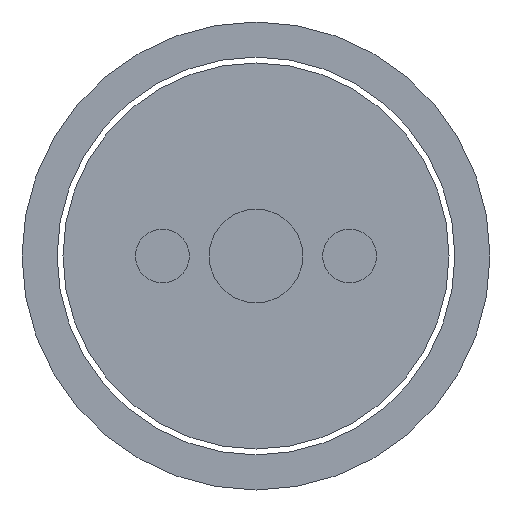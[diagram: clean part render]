
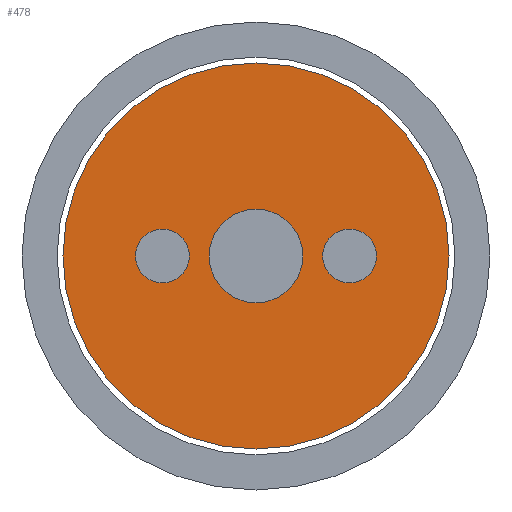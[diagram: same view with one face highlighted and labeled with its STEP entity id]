
A CAD part, front view. The second image highlights one B-rep face of the part: STEP entity #478.
In plain terms, the highlighted planar face has unit normal (0, -1, 0).
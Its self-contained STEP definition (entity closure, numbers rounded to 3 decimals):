
#393=CARTESIAN_POINT('',(0.,200.,0.));
#394=DIRECTION('',(0.,1.,0.));
#395=DIRECTION('',(1.,0.,0.));
#396=AXIS2_PLACEMENT_3D('',#393,#394,#395);
#398=CARTESIAN_POINT('',(0.,200.,0.));
#399=DIRECTION('',(0.,1.,0.));
#400=DIRECTION('',(-1.,0.,0.));
#401=AXIS2_PLACEMENT_3D('',#398,#399,#400);
#403=CARTESIAN_POINT('',(0.,200.,0.));
#404=DIRECTION('',(0.,-1.,0.));
#405=DIRECTION('',(1.,0.,0.));
#406=AXIS2_PLACEMENT_3D('',#403,#404,#405);
#408=CARTESIAN_POINT('',(0.,200.,0.));
#409=DIRECTION('',(0.,-1.,0.));
#410=DIRECTION('',(-1.,0.,0.));
#411=AXIS2_PLACEMENT_3D('',#408,#409,#410);
#413=CARTESIAN_POINT('',(4.,200.,0.));
#414=DIRECTION('',(0.,-1.,0.));
#415=DIRECTION('',(-1.,0.,0.));
#416=AXIS2_PLACEMENT_3D('',#413,#414,#415);
#418=CARTESIAN_POINT('',(4.,200.,0.));
#419=DIRECTION('',(0.,-1.,0.));
#420=DIRECTION('',(1.,0.,0.));
#421=AXIS2_PLACEMENT_3D('',#418,#419,#420);
#423=CARTESIAN_POINT('',(-4.,200.,0.));
#424=DIRECTION('',(0.,-1.,0.));
#425=DIRECTION('',(-1.,0.,0.));
#426=AXIS2_PLACEMENT_3D('',#423,#424,#425);
#428=CARTESIAN_POINT('',(-4.,200.,0.));
#429=DIRECTION('',(0.,-1.,0.));
#430=DIRECTION('',(1.,0.,0.));
#431=AXIS2_PLACEMENT_3D('',#428,#429,#430);
#433=CARTESIAN_POINT('',(8.25,200.,0.));
#434=CARTESIAN_POINT('',(-8.25,200.,0.));
#435=VERTEX_POINT('',#433);
#436=VERTEX_POINT('',#434);
#437=CARTESIAN_POINT('',(2.,200.,0.));
#438=CARTESIAN_POINT('',(-2.,200.,0.));
#439=VERTEX_POINT('',#437);
#440=VERTEX_POINT('',#438);
#441=CARTESIAN_POINT('',(2.85,200.,0.));
#442=CARTESIAN_POINT('',(5.15,200.,0.));
#443=VERTEX_POINT('',#441);
#444=VERTEX_POINT('',#442);
#445=CARTESIAN_POINT('',(-2.85,200.,0.));
#446=CARTESIAN_POINT('',(-5.15,200.,0.));
#447=VERTEX_POINT('',#445);
#448=VERTEX_POINT('',#446);
#449=CARTESIAN_POINT('',(0.,200.,0.));
#450=DIRECTION('',(0.,-1.,0.));
#451=DIRECTION('',(-1.,0.,0.));
#452=AXIS2_PLACEMENT_3D('',#449,#450,#451);
#453=PLANE('',#452);
#455=ORIENTED_EDGE('',*,*,#454,.T.);
#457=ORIENTED_EDGE('',*,*,#456,.T.);
#458=EDGE_LOOP('',(#455,#457));
#459=FACE_OUTER_BOUND('',#458,.F.);
#461=ORIENTED_EDGE('',*,*,#460,.T.);
#463=ORIENTED_EDGE('',*,*,#462,.T.);
#464=EDGE_LOOP('',(#461,#463));
#465=FACE_BOUND('',#464,.F.);
#467=ORIENTED_EDGE('',*,*,#466,.T.);
#469=ORIENTED_EDGE('',*,*,#468,.T.);
#470=EDGE_LOOP('',(#467,#469));
#471=FACE_BOUND('',#470,.F.);
#473=ORIENTED_EDGE('',*,*,#472,.T.);
#475=ORIENTED_EDGE('',*,*,#474,.T.);
#476=EDGE_LOOP('',(#473,#475));
#477=FACE_BOUND('',#476,.F.);
#478=ADVANCED_FACE('',(#459,#465,#471,#477),#453,.T.);
#397=CIRCLE('',#396,8.25);
#402=CIRCLE('',#401,8.25);
#407=CIRCLE('',#406,2.);
#412=CIRCLE('',#411,2.);
#417=CIRCLE('',#416,1.15);
#422=CIRCLE('',#421,1.15);
#427=CIRCLE('',#426,1.15);
#432=CIRCLE('',#431,1.15);
#454=EDGE_CURVE('',#435,#436,#397,.T.);
#456=EDGE_CURVE('',#436,#435,#402,.T.);
#460=EDGE_CURVE('',#439,#440,#407,.T.);
#462=EDGE_CURVE('',#440,#439,#412,.T.);
#466=EDGE_CURVE('',#443,#444,#417,.T.);
#468=EDGE_CURVE('',#444,#443,#422,.T.);
#472=EDGE_CURVE('',#448,#447,#427,.T.);
#474=EDGE_CURVE('',#447,#448,#432,.T.);
